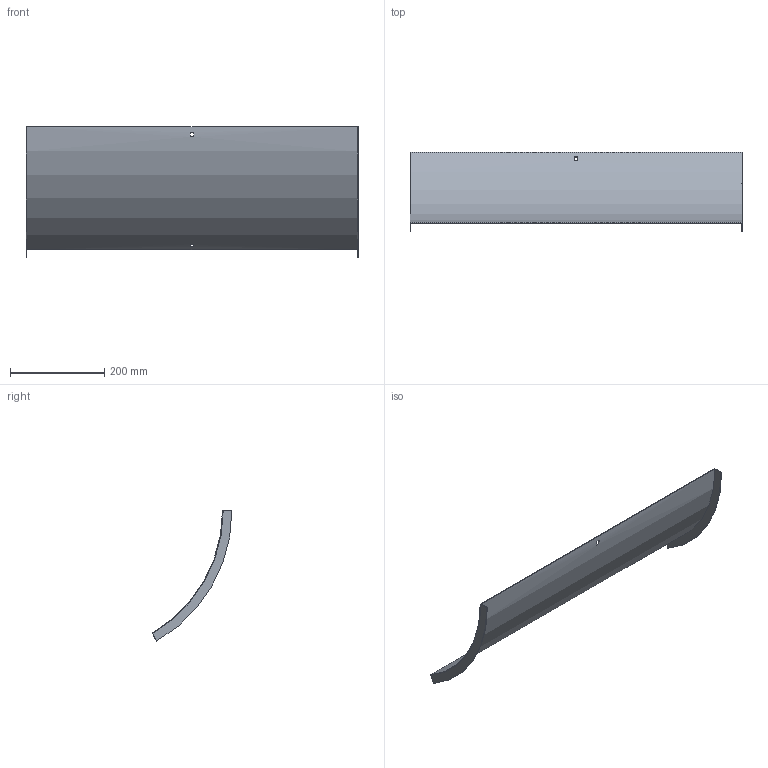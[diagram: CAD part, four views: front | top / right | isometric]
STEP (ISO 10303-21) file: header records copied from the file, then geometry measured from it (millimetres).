
FILE_DESCRIPTION (( 'STEP AP214' ), '1' );
FILE_NAME ('B2X40N3R700X.step', '2025-03-20T09:44:48', ( '' ), ( '' ), 'SwSTEP 2.0', 'SolidWorks 2023', '' );
FILE_SCHEMA (( 'AUTOMOTIVE_DESIGN' ));
Length unit declared in the file: millimetre
Products named in the file (1): B2X40N3R700X
Bounding box: 703 x 169.25 x 275.83 mm (x, y, z)
Volume: 348250.4 mm3; surface area: 467645.3 mm2
Topology: 1 solids, 1 shells, 18 faces, 48 edges, 32 vertices
Faces by surface type: plane 14, cylinder 4
Entity records: 599 total; most frequent: DIRECTION 102, CARTESIAN_POINT 99, ORIENTED_EDGE 96, EDGE_CURVE 48, AXIS2_PLACEMENT_3D 35, VERTEX_POINT 32, VECTOR 32, LINE 32
